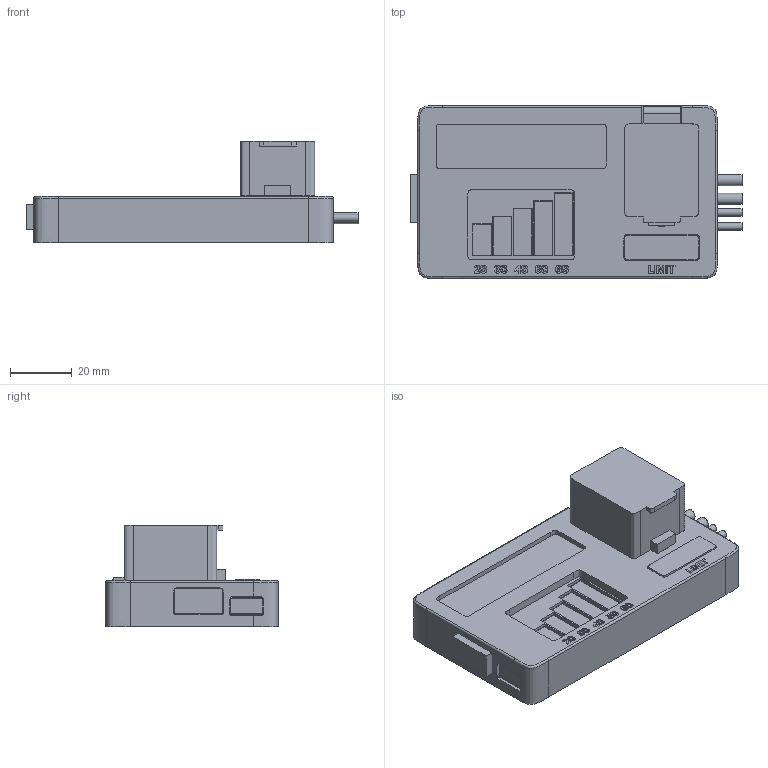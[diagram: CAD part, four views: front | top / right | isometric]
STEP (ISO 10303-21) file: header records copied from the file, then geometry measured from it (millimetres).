
FILE_DESCRIPTION(('Open CASCADE Model'),'2;1');
FILE_NAME('Open CASCADE Shape Model','2026-10-14T06:59:42',('Author'),( 'Open CASCADE'),'Open CASCADE STEP processor 7.9','Open CASCADE 7.9' ,'Unknown');
FILE_SCHEMA(('AUTOMOTIVE_DESIGN { 1 0 10303 214 1 1 1 1 }'));
Length unit declared in the file: millimetre
Products named in the file (213): smokebreak; top; bottom; guard; rocker; ring_inlay; text_inlay; pcb; display_module; SW1_bushing_lever; drone_leads; part_BZ1; part_C1; part_C10; part_C11; part_C12; part_C13; part_C14; part_C15; part_C16; part_C17; part_C18; part_C19; part_C2; part_C20; part_C21; part_C22; part_C23; part_C26; part_C27; part_C28; part_C29; part_C3; part_C30; part_C31; part_C32; part_C33; part_C34; part_C35; part_C36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
Assembly tree (212 placements, depth 2):
  smokebreak
    top
    bottom
    guard
    rocker
    ring_inlay
    text_inlay
    pcb
    display_module
    SW1_bushing_lever
    drone_leads
    part_BZ1
    part_C1
    part_C10
    part_C11
    part_C12
    part_C13
    part_C14
    part_C15
    part_C16
    part_C17
    part_C18
    part_C19
    part_C2
    part_C20
    part_C21
    part_C22
    part_C23
    part_C26
    part_C27
    part_C28
    part_C29
    part_C3
    part_C30
    part_C31
    part_C32
    part_C33
    part_C34
    part_C35
    part_C36
    part_C37
    part_C38
    part_C39
    part_C4
    part_C40
    part_C41
    part_C42
    part_C43
    part_C44
    part_C45
    part_C46
    part_C47
    part_C48
    part_C49
    part_C5
    part_C50
    part_C51
    part_C52
    part_C53
    part_C54
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Bounding box: 107.5 x 56 x 32.9 mm (x, y, z)
Volume: 27537.8 mm3; surface area: 49155.2 mm2
Topology: 238 solids, 263 shells, 3779 faces, 9835 edges, 6574 vertices
Faces by surface type: plane 3648, cylinder 82, extrusion 38, bspline 6, sphere 4, cone 1
Full cylindrical faces by diameter (mm): 1.6 x2, 1.9 x3, 2.05 x1, 2.25 x2, 2.4 x4, 3 x2, 3.2 x3, 3.4 x3, 3.6 x4, 4 x3, 6.2 x3, 6.35 x1, 6.6 x1, 7.35 x1, 7.5 x3, 7.75 x1, 9 x4, 10 x4
Entity records: 267995 total; most frequent: CARTESIAN_POINT 64468, DIRECTION 36805, VECTOR 28525, LINE 28487, ORIENTED_EDGE 19375, PCURVE 19375, DEFINITIONAL_REPRESENTATION 19375, EDGE_CURVE 9823
